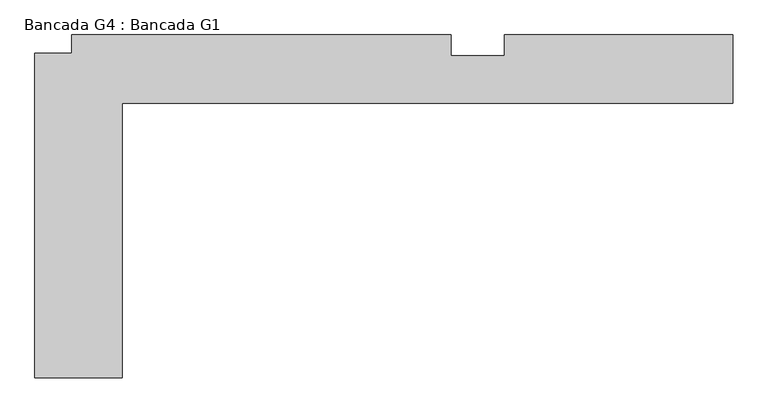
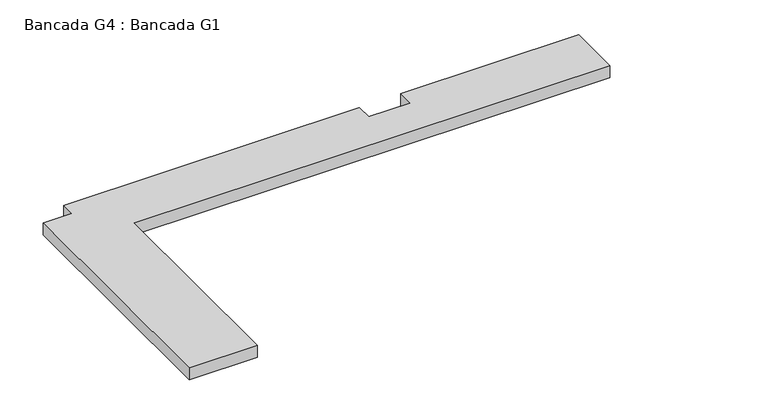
"""IFC4 building model written with IfcOpenShell, lengths in millimetres: furniture geometry, Bancada G4 : Bancada G1."""

from ifc_helpers import new_model, si_unit, frame, origin, place, context, project, spatial, polyline, outline, extrude, source, transform, mapped, element, save


def bancada_g4_bancada_g1_b31d8305(model_context):
    return source(origin(), model_context, "Body", "SweptSolid", [
        extrude(outline(polyline([(-4992.3834094, -3077.0637549), (-9802.3834094, -3077.0637549), (-9802.3834094, -5237.0637549), (-10492.3834094, -5237.0637549), (-10492.3834094, -2682.0637549), (-10202.3834094, -2682.0637549), (-10202.3834094, -2537.0637549), (-7212.3834094, -2537.0637549), (-7212.3834094, -2702.0637549), (-6792.3834094, -2702.0637549), (-6792.3834094, -2537.0637549), (-4992.3834094, -2537.0637549), (-4992.3834094, -3077.0637549)])), frame((0.0, 0.0, 390.0), z_axis=(0.0, 0.0, 1.0), x_axis=(1.0, 0.0, 0.0)), (0.0, 0.0, 1.0), 130.0),
    ])


if __name__ == "__main__":
    model = new_model("IFC4")
    model_context = context("Model", 3, world=origin())
    ifc_project = project(units=[si_unit("LENGTHUNIT", "METRE", prefix="MILLI")], contexts=[model_context])
    site = spatial("IfcSite", under=ifc_project)
    building = spatial("IfcBuilding", under=site)
    placement = place(None, origin())
    bancada_g4_bancada_g1_shape = bancada_g4_bancada_g1_b31d8305(model_context)
    element("IfcFurniture", 1, ObjectType="Bancada G4 : Bancada G1", at=placement, inside=building, context=model_context, shape_type="MappedRepresentation", body=[
        mapped(bancada_g4_bancada_g1_shape, transform((0.0, 0.0, 0.0), x_axis=(1.0, 0.0, 0.0), y_axis=(0.0, 1.0, 0.0), z_axis=(0.0, 0.0, 1.0))),
    ])
    save(model, "model.ifc")
